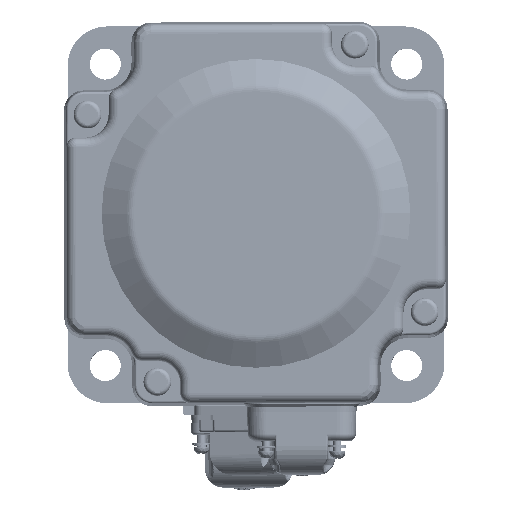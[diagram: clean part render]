
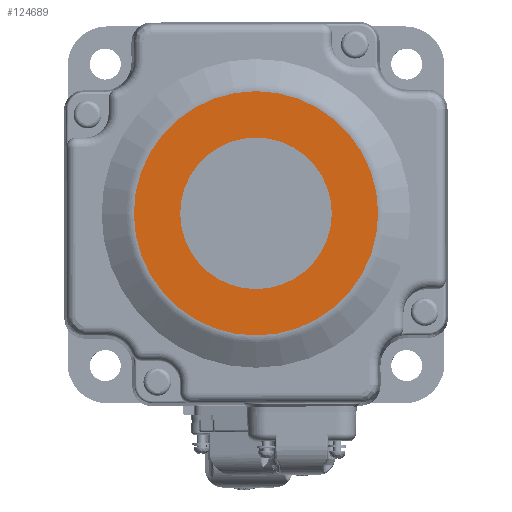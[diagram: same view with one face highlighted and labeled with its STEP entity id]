
A CAD part, top view. The second image highlights one B-rep face of the part: STEP entity #124689.
In plain terms, the highlighted planar face has unit normal (0, 0, 1).
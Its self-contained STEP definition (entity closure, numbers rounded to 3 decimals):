
#46465=CARTESIAN_POINT('',(40.025,40.025,163.522));
#46466=DIRECTION('',(0.,0.,-1.));
#46467=DIRECTION('',(-1.,-0.003,0.));
#46468=AXIS2_PLACEMENT_3D('',#46465,#46466,#46467);
#46470=CARTESIAN_POINT('',(40.025,40.025,163.522));
#46471=DIRECTION('',(0.,0.,-1.));
#46472=DIRECTION('',(1.,0.003,0.));
#46473=AXIS2_PLACEMENT_3D('',#46470,#46471,#46472);
#46475=CARTESIAN_POINT('',(40.025,40.025,163.522));
#46476=DIRECTION('',(0.,0.,1.));
#46477=DIRECTION('',(-1.,-0.003,0.));
#46478=AXIS2_PLACEMENT_3D('',#46475,#46476,#46477);
#46480=CARTESIAN_POINT('',(40.025,40.025,163.522));
#46481=DIRECTION('',(0.,0.,1.));
#46482=DIRECTION('',(1.,0.003,0.));
#46483=AXIS2_PLACEMENT_3D('',#46480,#46481,#46482);
#53270=CARTESIAN_POINT('',(14.236,39.96,163.522));
#53271=CARTESIAN_POINT('',(65.814,40.09,163.522));
#53272=VERTEX_POINT('',#53270);
#53273=VERTEX_POINT('',#53271);
#53274=CARTESIAN_POINT('',(24.025,39.985,163.522));
#53275=CARTESIAN_POINT('',(56.025,40.065,163.522));
#53276=VERTEX_POINT('',#53274);
#53277=VERTEX_POINT('',#53275);
#124673=CARTESIAN_POINT('',(40.025,40.025,
163.522));
#124674=DIRECTION('',(0.,0.,1.));
#124675=DIRECTION('',(-1.,-0.003,0.));
#124676=AXIS2_PLACEMENT_3D('',#124673,#124674,#124675);
#124677=PLANE('',#124676);
#124678=ORIENTED_EDGE('',*,*,#124663,.T.);
#124680=ORIENTED_EDGE('',*,*,#124679,.T.);
#124681=EDGE_LOOP('',(#124678,#124680));
#124682=FACE_OUTER_BOUND('',#124681,.F.);
#124684=ORIENTED_EDGE('',*,*,#124683,.T.);
#124686=ORIENTED_EDGE('',*,*,#124685,.T.);
#124687=EDGE_LOOP('',(#124684,#124686));
#124688=FACE_BOUND('',#124687,.F.);
#46469=CIRCLE('',#46468,25.789);
#46474=CIRCLE('',#46473,25.789);
#46479=CIRCLE('',#46478,16.);
#46484=CIRCLE('',#46483,16.);
#124663=EDGE_CURVE('',#53272,#53273,#46469,.T.);
#124679=EDGE_CURVE('',#53273,#53272,#46474,.T.);
#124683=EDGE_CURVE('',#53276,#53277,#46479,.T.);
#124685=EDGE_CURVE('',#53277,#53276,#46484,.T.);
#124689=ADVANCED_FACE('',(#124682,#124688),#124677,.T.);
